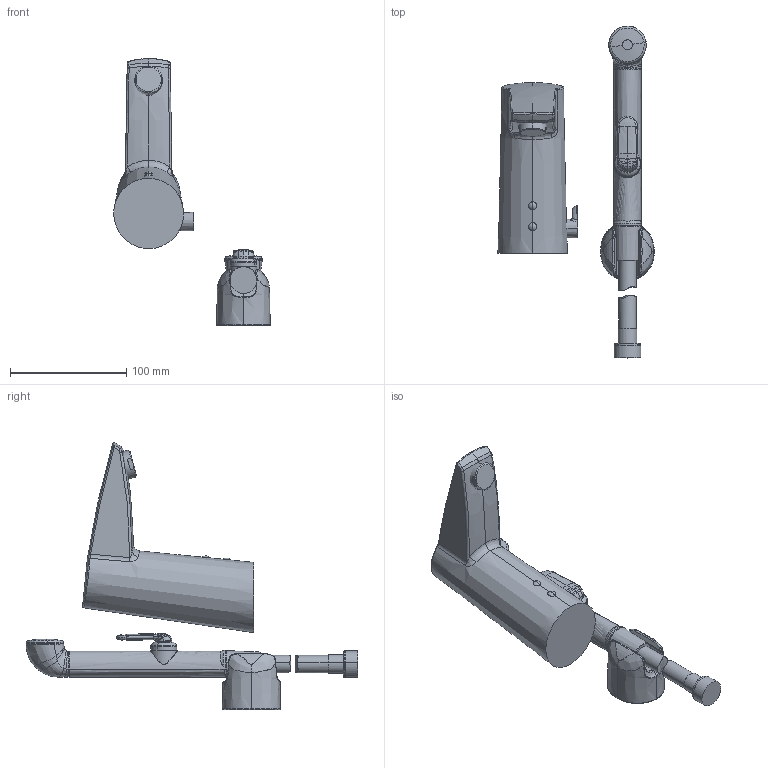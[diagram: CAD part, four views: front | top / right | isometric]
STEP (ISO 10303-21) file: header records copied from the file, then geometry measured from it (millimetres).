
FILE_DESCRIPTION (( 'STEP AP203' ), '1' );
FILE_NAME ('2826FTZ(2020).STEP', '2020-01-22T06:54:17', ( '' ), ( '' ), 'SwSTEP 2.0', 'SolidWorks 2016', '' );
FILE_SCHEMA (( 'CONFIG_CONTROL_DESIGN' ));
Products named in the file (1): 2826FTZ(2020)
Bounding box: 134.39 x 285.35 x 229.54 mm (x, y, z)
Volume: 645723.1 mm3; surface area: 81852.3 mm2
Topology: 12 solids, 12 shells, 334 faces, 1086 edges, 780 vertices
Faces by surface type: bspline 223, plane 30, cylinder 28, torus 28, cone 16, sphere 9
Entity records: 36158 total; most frequent: CARTESIAN_POINT 28799, ORIENTED_EDGE 2168, EDGE_CURVE 1084, VERTEX_POINT 780, DIRECTION 696, B_SPLINE_CURVE_WITH_KNOTS 689, EDGE_LOOP 340, ADVANCED_FACE 334
